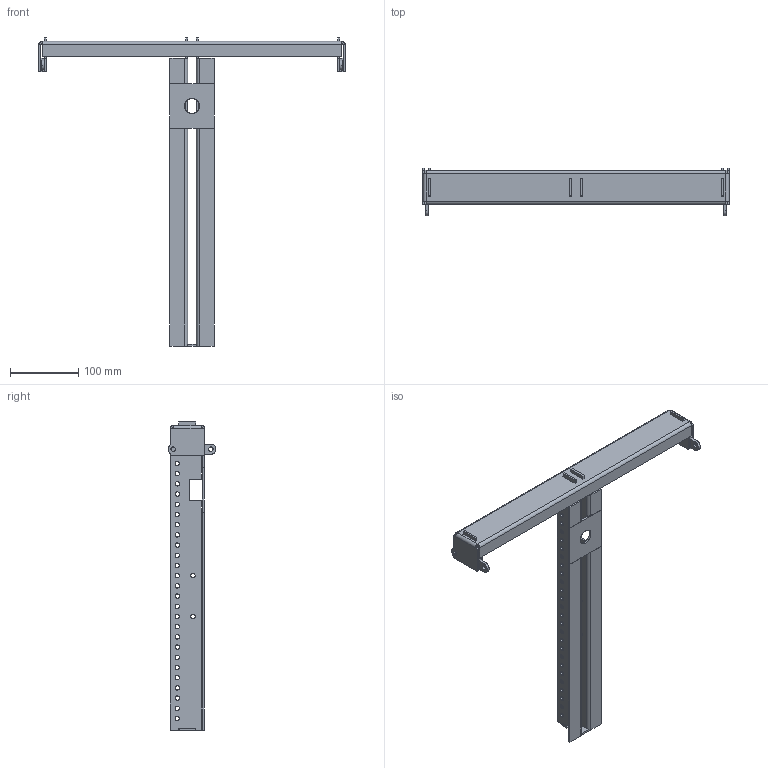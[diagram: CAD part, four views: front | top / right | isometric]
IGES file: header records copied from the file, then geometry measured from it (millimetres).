
Start section: SolidWorks IGES file using analytic representation for surfaces
Global section: file name: C:\Documents and Settings\Administrator\Desktop\Dateien-für-Internet\SEEBURG_Galeo-S_light-Frame.IGS; native system: SolidWorks 2009; preprocessor: SolidWorks 2009; author: Administrator; date: 160225.103741; units: millimetre
Bounding box: 450 x 70.5 x 453 mm (x, y, z)
Surface area: 239466.2 mm2 (no closed solid volume)
Topology: 0 solids, 0 shells, 358 faces, 6392 edges, 6392 vertices
Faces by surface type: bspline 192, revolution 166
